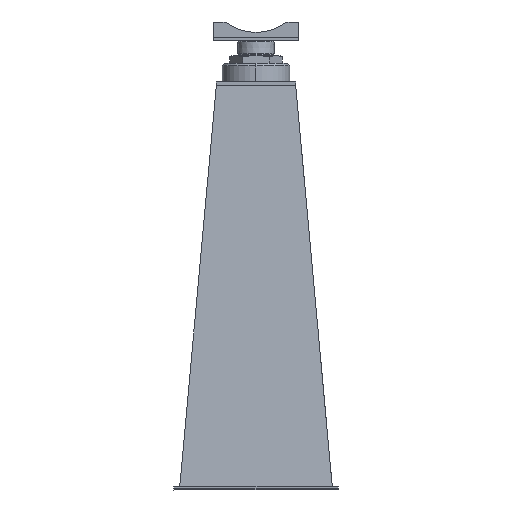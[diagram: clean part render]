
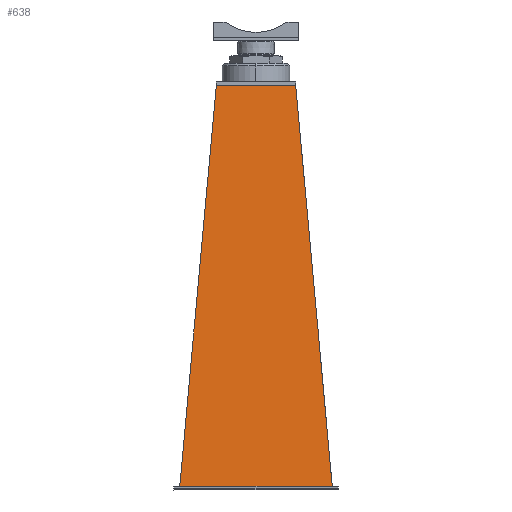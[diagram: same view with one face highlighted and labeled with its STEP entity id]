
A CAD part, left-side view. The second image highlights one B-rep face of the part: STEP entity #638.
In plain terms, the highlighted planar face has unit normal (-0.996, 0, 0.091).
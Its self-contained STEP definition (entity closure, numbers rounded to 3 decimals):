
#638=ADVANCED_FACE('',(#1314),#1315,.T.);
#1314=FACE_OUTER_BOUND('',#2070,.T.);
#1315=PLANE('',#2071);
#2070=EDGE_LOOP('',(#4007,#4008,#4009,#4010));
#2071=AXIS2_PLACEMENT_3D('',#4011,#4012,#4013);
#4007=ORIENTED_EDGE('',*,*,#5060,.T.);
#4008=ORIENTED_EDGE('',*,*,#4808,.F.);
#4009=ORIENTED_EDGE('',*,*,#5048,.T.);
#4010=ORIENTED_EDGE('',*,*,#5075,.T.);
#4011=CARTESIAN_POINT('',(405.755,682.318,246.198));
#4012=DIRECTION('',(-0.996,0.,0.091));
#4013=DIRECTION('',(0.,1.0,0.));
#4808=EDGE_CURVE('',#5793,#5788,#5795,.F.);
#5048=EDGE_CURVE('',#5793,#6107,#6109,.F.);
#5060=EDGE_CURVE('',#6128,#5788,#6131,.T.);
#5075=EDGE_CURVE('',#6107,#6128,#6150,.F.);
#5788=VERTEX_POINT('',#7390);
#5793=VERTEX_POINT('',#7397);
#5795=LINE('',#7400,#7401);
#6107=VERTEX_POINT('',#7969);
#6109=LINE('',#7972,#7973);
#6128=VERTEX_POINT('',#8000);
#6131=LINE('',#8005,#8006);
#6150=LINE('',#8033,#8034);
#7390=CARTESIAN_POINT('',(345.73,495.306,-411.075));
#7397=CARTESIAN_POINT('',(405.73,555.306,245.925));
#7400=CARTESIAN_POINT('',(406.288,555.864,252.035));
#7401=VECTOR('',#8753,1.);
#7969=CARTESIAN_POINT('',(405.73,685.331,245.925));
#7972=CARTESIAN_POINT('',(405.73,651.318,245.925));
#7973=VECTOR('',#8923,1.);
#8000=CARTESIAN_POINT('',(345.73,745.331,-411.075));
#8005=CARTESIAN_POINT('',(345.73,651.318,-411.075));
#8006=VECTOR('',#8934,1.);
#8033=CARTESIAN_POINT('',(406.288,684.773,252.035));
#8034=VECTOR('',#8943,1.);
#8753=DIRECTION('',(0.091,0.091,0.992));
#8923=DIRECTION('',(0.,-1.0,0.));
#8934=DIRECTION('',(0.,-1.0,0.));
#8943=DIRECTION('',(0.091,-0.091,0.992));
